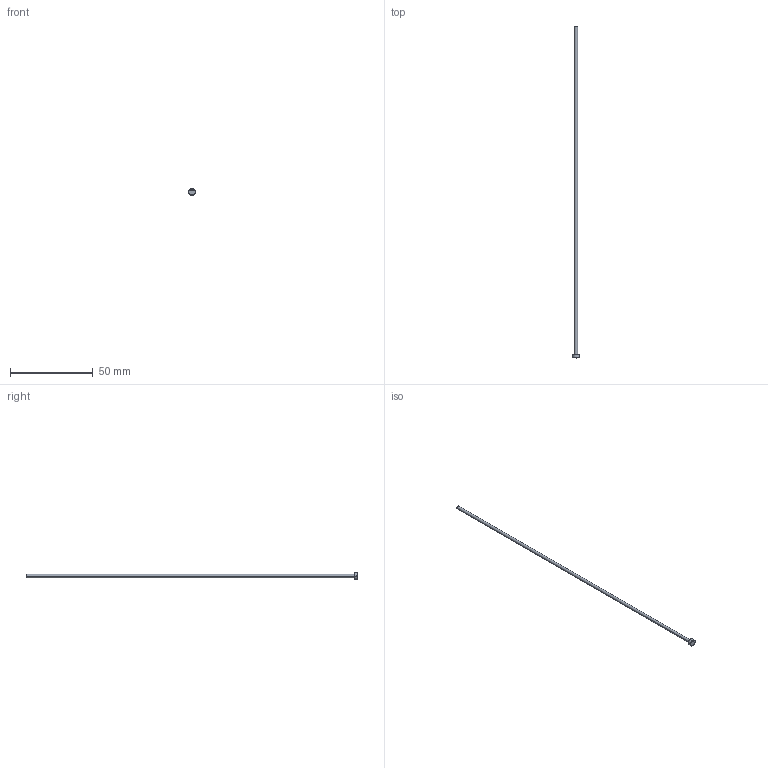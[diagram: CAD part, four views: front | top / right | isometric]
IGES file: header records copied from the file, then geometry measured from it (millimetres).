
Start section: SolidWorks IGES file using analytic representation for surfaces
Global section: file name: C:\Users\User\Downloads\Matripeça 31-08 tar\PB - PINO EXTRATOR TIPO _B_ (CATÁLOGO)\PB02,0\PB02,0200.IGS; native system: SolidWorks 2024; preprocessor: SolidWorks 2024; author: User; date: 260901.140507; units: millimetre
Bounding box: 4 x 200 x 4 mm (x, y, z)
Surface area: 1297 mm2 (no closed solid volume)
Topology: 0 solids, 0 shells, 400 faces, 2914 edges, 2914 vertices
Faces by surface type: bspline 386, revolution 14
